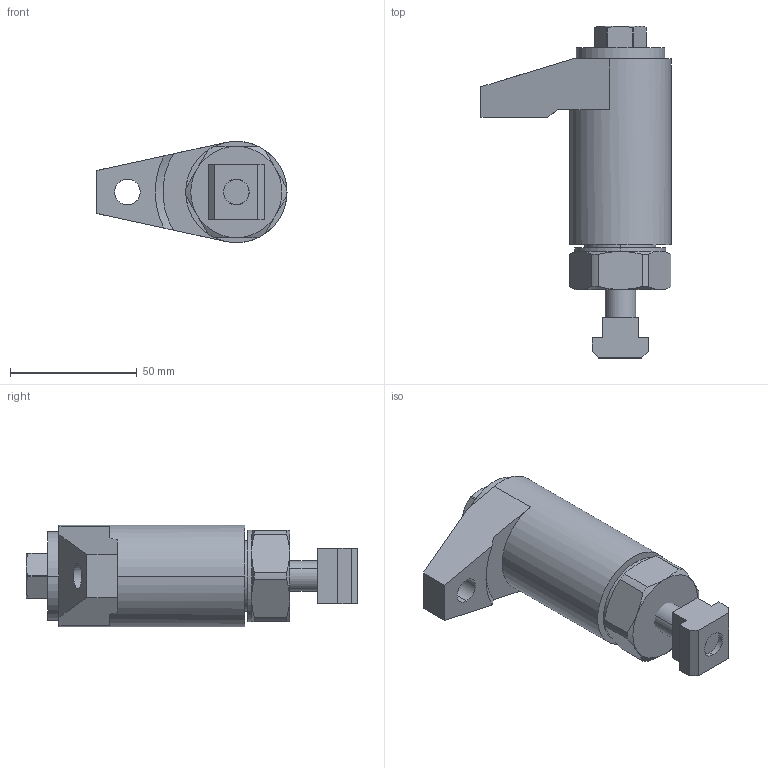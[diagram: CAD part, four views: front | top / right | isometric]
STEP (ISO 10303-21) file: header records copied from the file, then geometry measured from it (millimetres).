
FILE_DESCRIPTION (( 'STEP AP214' ), '1' );
FILE_NAME ('9192-40-30-S.step', '2021-06-10T10:24:01', ( '' ), ( '' ), 'SwSTEP 2.0', 'SolidWorks 2019', '' );
FILE_SCHEMA (( 'AUTOMOTIVE_DESIGN' ));
Length unit declared in the file: millimetre
Products named in the file (5): WB9192_Befestigungszylinder^WB9192_40-30; WB913^WB9192_M12xx35; 9192-40-30-S; WB508^WB9192_14-M12-10; WB9192Spannklaue^WB9192_40-30
Assembly tree (4 placements, depth 2):
  9192-40-30-S
    WB9192_Befestigungszylinder^WB9192_40-30
    WB9192Spannklaue^WB9192_40-30
    WB913^WB9192_M12xx35
    WB508^WB9192_14-M12-10
Bounding box: 75 x 131 x 40 mm (x, y, z)
Volume: 140215.8 mm3; surface area: 40048.6 mm2
Topology: 4 solids, 4 shells, 115 faces, 268 edges, 169 vertices
Faces by surface type: plane 50, cylinder 37, cone 28
Entity records: 3703 total; most frequent: CARTESIAN_POINT 775, DIRECTION 573, ORIENTED_EDGE 536, EDGE_CURVE 268, AXIS2_PLACEMENT_3D 223, VERTEX_POINT 169, EDGE_LOOP 129, LINE 127
